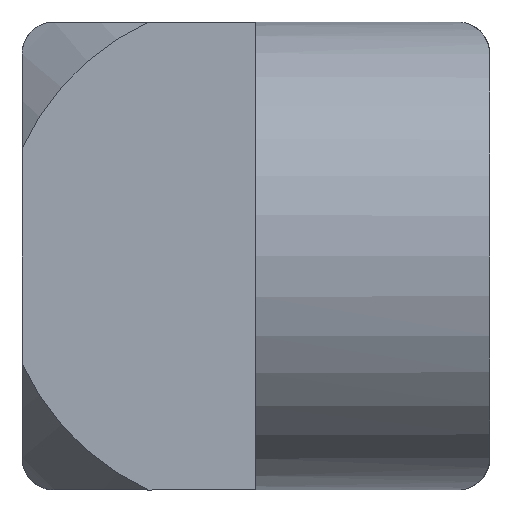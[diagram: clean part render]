
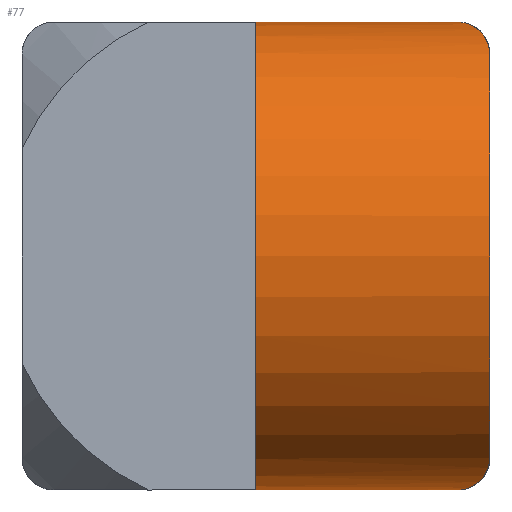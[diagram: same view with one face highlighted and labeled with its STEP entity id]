
A CAD part, left-side view. The second image highlights one B-rep face of the part: STEP entity #77.
In plain terms, the highlighted cylindrical face has radius 8 mm (diameter 16 mm), a partial arc.
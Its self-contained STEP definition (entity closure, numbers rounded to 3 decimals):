
#77 = ADVANCED_FACE( '', ( #105 ), #106, .T. );
#105 = FACE_OUTER_BOUND( '', #164, .T. );
#106 = CYLINDRICAL_SURFACE( '', #165, 8. );
#164 = EDGE_LOOP( '', ( #233, #234, #235, #236, #237, #238 ) );
#165 = AXIS2_PLACEMENT_3D( '', #239, #240, #241 );
#233 = ORIENTED_EDGE( '', *, *, #413, .T. );
#234 = ORIENTED_EDGE( '', *, *, #414, .T. );
#235 = ORIENTED_EDGE( '', *, *, #415, .T. );
#236 = ORIENTED_EDGE( '', *, *, #411, .T. );
#237 = ORIENTED_EDGE( '', *, *, #416, .F. );
#238 = ORIENTED_EDGE( '', *, *, #417, .F. );
#239 = CARTESIAN_POINT( '', ( 8., 16., 0. ) );
#240 = DIRECTION( '', ( 0., 1., 0. ) );
#241 = DIRECTION( '', ( 0., 0., -1. ) );
#411 = EDGE_CURVE( '', #472, #470, #473, .T. );
#413 = EDGE_CURVE( '', #475, #476, #477, .T. );
#414 = EDGE_CURVE( '', #476, #478, #479, .F. );
#415 = EDGE_CURVE( '', #478, #472, #480, .T. );
#416 = EDGE_CURVE( '', #481, #470, #482, .T. );
#417 = EDGE_CURVE( '', #475, #481, #483, .T. );
#470 = VERTEX_POINT( '', #589 );
#472 = VERTEX_POINT( '', #592 );
#473 = B_SPLINE_CURVE_WITH_KNOTS( '', 3, ( #593, #594, #595, #596, #597, #598, #599, #600, #601, #602, #603, #604 ), .UNSPECIFIED., .F., .F., ( 4, 2, 2, 2, 2, 4 ), ( 0., 0.001, 0.002, 0.003, 0.004, 0.004 ), .UNSPECIFIED. );
#475 = VERTEX_POINT( '', #607 );
#476 = VERTEX_POINT( '', #608 );
#477 = LINE( '', #609, #610 );
#478 = VERTEX_POINT( '', #611 );
#479 = B_SPLINE_CURVE_WITH_KNOTS( '', 3, ( #612, #613, #614, #615, #616, #617, #618, #619, #620, #621, #622, #623 ), .UNSPECIFIED., .F., .F., ( 4, 2, 2, 2, 2, 4 ), ( 0., 0.001, 0.002, 0.003, 0.004, 0.004 ), .UNSPECIFIED. );
#480 = CIRCLE( '', #624, 8. );
#481 = VERTEX_POINT( '', #625 );
#482 = LINE( '', #626, #627 );
#483 = CIRCLE( '', #628, 8. );
#589 = CARTESIAN_POINT( '', ( 8., 1.1, 8. ) );
#592 = CARTESIAN_POINT( '', ( 3.952, 0., 6.9 ) );
#593 = CARTESIAN_POINT( '', ( 3.952, 0., 6.9 ) );
#594 = CARTESIAN_POINT( '', ( 4.273, 0., 7.088 ) );
#595 = CARTESIAN_POINT( '', ( 4.599, 0.046, 7.25 ) );
#596 = CARTESIAN_POINT( '', ( 5.266, 0.183, 7.527 ) );
#597 = CARTESIAN_POINT( '', ( 5.609, 0.277, 7.642 ) );
#598 = CARTESIAN_POINT( '', ( 6.288, 0.485, 7.822 ) );
#599 = CARTESIAN_POINT( '', ( 6.627, 0.601, 7.889 ) );
#600 = CARTESIAN_POINT( '', ( 7.14, 0.783, 7.955 ) );
#601 = CARTESIAN_POINT( '', ( 7.311, 0.846, 7.972 ) );
#602 = CARTESIAN_POINT( '', ( 7.654, 0.972, 7.994 ) );
#603 = CARTESIAN_POINT( '', ( 7.828, 1.036, 8. ) );
#604 = CARTESIAN_POINT( '', ( 8., 1.1, 8. ) );
#607 = CARTESIAN_POINT( '', ( 8., 8., -8. ) );
#608 = CARTESIAN_POINT( '', ( 8., 1.1, -8. ) );
#609 = CARTESIAN_POINT( '', ( 8., 16., -8. ) );
#610 = VECTOR( '', #833, 1000. );
#611 = CARTESIAN_POINT( '', ( 3.952, 0., -6.9 ) );
#612 = CARTESIAN_POINT( '', ( 3.952, 0., -6.9 ) );
#613 = CARTESIAN_POINT( '', ( 4.273, 0., -7.088 ) );
#614 = CARTESIAN_POINT( '', ( 4.599, 0.046, -7.25 ) );
#615 = CARTESIAN_POINT( '', ( 5.266, 0.183, -7.527 ) );
#616 = CARTESIAN_POINT( '', ( 5.609, 0.277, -7.642 ) );
#617 = CARTESIAN_POINT( '', ( 6.288, 0.485, -7.822 ) );
#618 = CARTESIAN_POINT( '', ( 6.627, 0.601, -7.889 ) );
#619 = CARTESIAN_POINT( '', ( 7.14, 0.783, -7.955 ) );
#620 = CARTESIAN_POINT( '', ( 7.311, 0.846, -7.972 ) );
#621 = CARTESIAN_POINT( '', ( 7.654, 0.972, -7.994 ) );
#622 = CARTESIAN_POINT( '', ( 7.828, 1.036, -8. ) );
#623 = CARTESIAN_POINT( '', ( 8., 1.1, -8. ) );
#624 = AXIS2_PLACEMENT_3D( '', #834, #835, #836 );
#625 = CARTESIAN_POINT( '', ( 8., 8., 8. ) );
#626 = CARTESIAN_POINT( '', ( 8., 16., 8. ) );
#627 = VECTOR( '', #837, 1000. );
#628 = AXIS2_PLACEMENT_3D( '', #838, #839, #840 );
#833 = DIRECTION( '', ( 0., -1., 0. ) );
#834 = CARTESIAN_POINT( '', ( 8., 0., 0. ) );
#835 = DIRECTION( '', ( 0., 1., 0. ) );
#836 = DIRECTION( '', ( 1., 0., 0. ) );
#837 = DIRECTION( '', ( 0., -1., 0. ) );
#838 = CARTESIAN_POINT( '', ( 8., 8., 0. ) );
#839 = DIRECTION( '', ( 0., 1., 0. ) );
#840 = DIRECTION( '', ( 0., 0., 1. ) );
